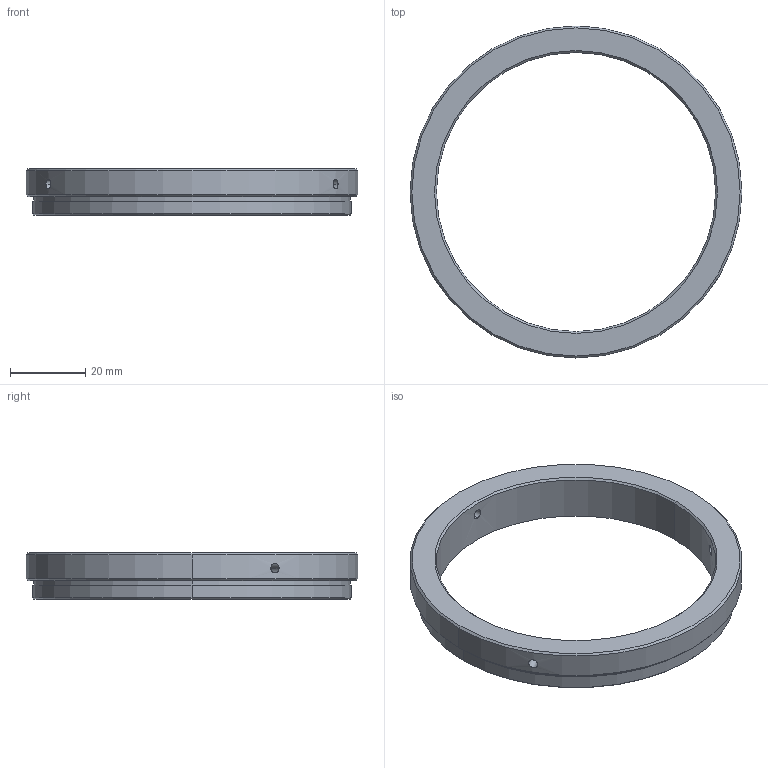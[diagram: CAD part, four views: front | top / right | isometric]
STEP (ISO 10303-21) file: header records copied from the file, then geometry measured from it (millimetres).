
FILE_DESCRIPTION (( 'STEP AP214' ), '1' );
FILE_NAME ('A21131A0000101A.STEP', '2026-05-19T05:15:37', ( '' ), ( '' ), 'SwSTEP 2.0', 'SolidWorks 2025', '' );
FILE_SCHEMA (( 'AUTOMOTIVE_DESIGN' ));
Length unit declared in the file: millimetre
Products named in the file (1): A21131A0000101A
Bounding box: 88 x 88 x 12.2 mm (x, y, z)
Volume: 19099.8 mm3; surface area: 9732.6 mm2
Topology: 1 solids, 1 shells, 26 faces, 58 edges, 36 vertices
Faces by surface type: cylinder 14, cone 8, plane 4
Entity records: 965 total; most frequent: CARTESIAN_POINT 349, DIRECTION 124, ORIENTED_EDGE 116, EDGE_CURVE 58, AXIS2_PLACEMENT_3D 51, VERTEX_POINT 36, EDGE_LOOP 36, ADVANCED_FACE 26
